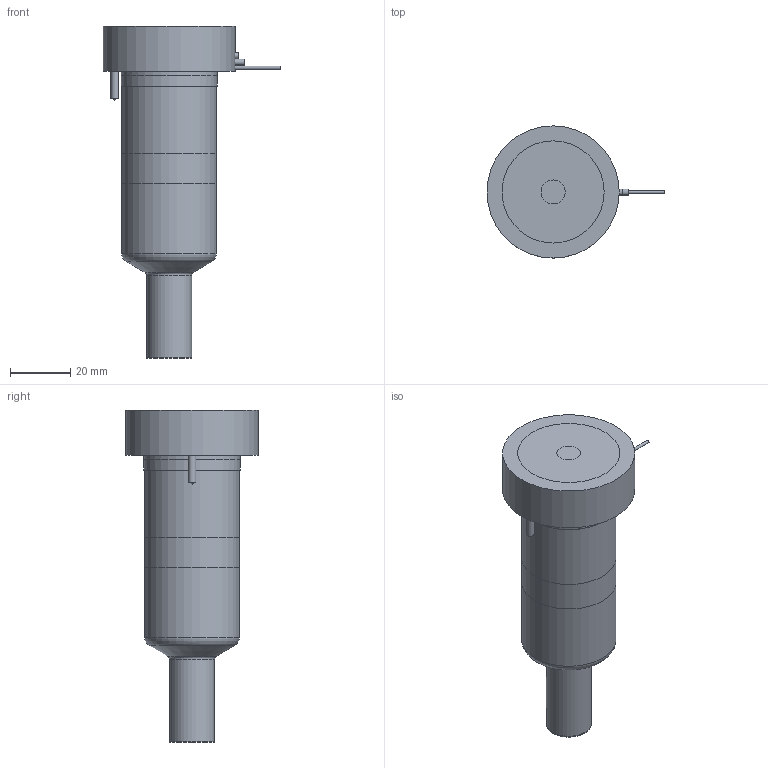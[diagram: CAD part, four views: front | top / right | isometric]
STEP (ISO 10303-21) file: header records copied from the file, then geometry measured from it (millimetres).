
FILE_DESCRIPTION(/* description */ (''),/* implementation_level */ '2;1');
FILE_NAME(/* name */ 'MXTSX-MXISX-MXOSX19075_250C_b',/* time_stamp */ '2008-04-28T15:42:26+12:00',/* author */ (''),/* organization */ (''),/* preprocessor_version */ 'ST-DEVELOPER v9',/* originating_system */ 'UGS - NX 4.0',/* authorisation */ '');
FILE_SCHEMA (('CONFIG_CONTROL_DESIGN'));
Length unit declared in the file: millimetre
Products named in the file (1): MXTSX-MXISX-MXOSX19075_250C_b
Bounding box: 59.25 x 44 x 110.51 mm (x, y, z)
Volume: 141434.3 mm3; surface area: 27135.1 mm2
Topology: 7 solids, 7 shells, 78 faces, 147 edges, 95 vertices
Faces by surface type: plane 35, cylinder 27, cone 8, torus 7, bspline 1
Full cylindrical faces by diameter (mm): 1 x3, 1.2 x1, 2 x2, 2.5 x2, 8 x1, 14.61 x1, 15.01 x2, 18.3 x1, 25.4 x1, 31.5 x2, 32 x2, 44 x1
Entity records: 1886 total; most frequent: CARTESIAN_POINT 376, DIRECTION 322, ORIENTED_EDGE 212, AXIS2_PLACEMENT_3D 148, EDGE_LOOP 122, EDGE_CURVE 106, VERTEX_POINT 87, ADVANCED_FACE 78
